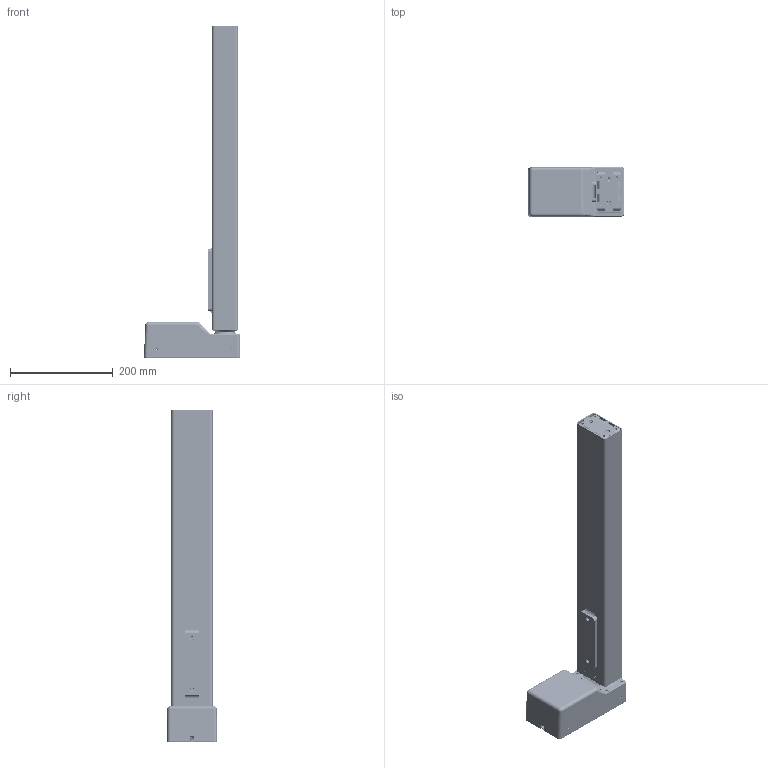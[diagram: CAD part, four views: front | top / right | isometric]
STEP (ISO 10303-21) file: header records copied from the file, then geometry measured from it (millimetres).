
FILE_DESCRIPTION((''),'2;1');
FILE_NAME('0568030_FOIL_ASM','2022-11-21T08:10:51',('mat'),(''),'CREO PARAMETRIC BY PTC INC, 2022024','CREO PARAMETRIC BY PTC INC, 2022024','');
FILE_SCHEMA(('AUTOMOTIVE_DESIGN { 1 0 10303 214 1 1 1 1 }'));
Products named in the file (49): 0564008G; 0564006G; 0564009G; 0564002G; 0564003G; 0564001G; 0564007G; 0568021G_ASM; 0564010G; 0564011G; 0561001; 0561020; 0561014; 0561003; 0568028_ASM; 0561045; 0018032; 0562002; 0561021; 0561005; 0561004; 031008; 0568029_ASM; M-1P-SNEKKEAKSEL; M-1P-SVOEB; M-1P-ROTOR; M-1P-GUMMIENDE; M-1P-KULHOLDER; M-1P-LEJE; 0568012_ASM; 0561012; 0561025; 0568014_ASM; 0561011; 0561008; 0561010; 0561009; 0561015; 0561013; 0568010_ASM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
Assembly tree (61 placements, depth 6):
  0568030_FOIL_ASM
    0564008G
    0564006G
    0564009G
    0564002G  x2
    0564003G  x2
    0568021G_ASM
      0564001G
      0564007G
    0564010G
    0564011G
    0568028_ASM
      0561001
      0561020
      0561014
      0561003
    0568029_ASM
      0561045  x2
      0018032
      0562002
      0561021
      0561005
      0561004
      0561003
      0561014
      0561020
      0561001
      031008
    0568018_ASM
      0568013_ASM
        0568014_ASM
          0568012_ASM
            M-1P-SNEKKEAKSEL
            M-1P-SVOEB
            M-1P-ROTOR
            M-1P-GUMMIENDE
            M-1P-KULHOLDER
            M-1P-LEJE
          0561012
          0561025  x2
        0561011
        0568010_ASM
          0561008
          0561010
          0561009
          0561015
          0561013
        0561018
      0561024
      0561026
    0561043
    0564004__
    STJERNESKRUE  x6
Bounding box: 187 x 96.79 x 645.5 mm (x, y, z)
Volume: 1378191.9 mm3; surface area: 1075097.5 mm2
Topology: 68 solids, 70 shells, 6785 faces, 17456 edges, 10830 vertices
Faces by surface type: plane 2366, cylinder 2092, bspline 1072, cone 605, torus 435, sphere 206, extrusion 9
Entity records: 341248 total; most frequent: CARTESIAN_POINT 198247, ORIENTED_EDGE 29420, DIRECTION 24259, EDGE_CURVE 14710, VERTEX_POINT 9194, AXIS2_PLACEMENT_3D 9076, VECTOR 6107, LINE 6100
